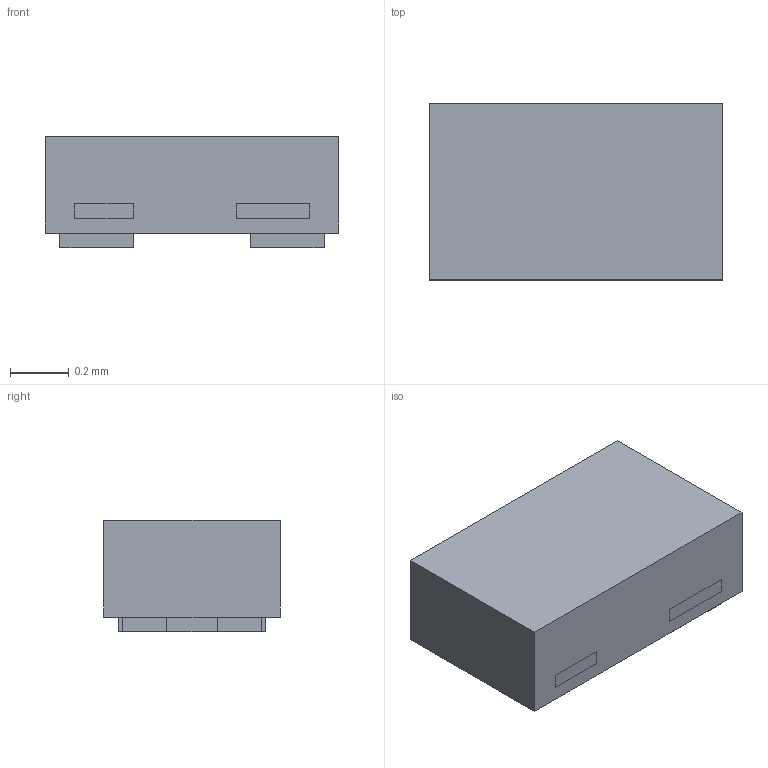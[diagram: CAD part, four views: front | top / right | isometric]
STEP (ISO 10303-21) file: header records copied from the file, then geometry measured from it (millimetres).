
FILE_DESCRIPTION(/* description */ (''),/* implementation_level */ '2;1');
FILE_NAME(/* name */ 'P300-SOT883.stp',/* time_stamp */ '2020-07-13T13:48:13+02:00',/* author */ (''),/* organization */ (''),/* preprocessor_version */ 'ST-DEVELOPER v14',/* originating_system */ 'SIEMENS PLM Software NX 8.0',/* authorisation */ '');
FILE_SCHEMA (('AUTOMOTIVE_DESIGN { 1 0 10303 214 3 1 1 1 }'));
Length unit declared in the file: millimetre
Products named in the file (1): P300-SOT883-body
Bounding box: 1 x 0.6 x 0.38 mm (x, y, z)
Volume: 0.2 mm3; surface area: 3.7 mm2
Topology: 4 solids, 4 shells, 61 faces, 162 edges, 108 vertices
Faces by surface type: plane 61
Entity records: 2002 total; most frequent: CARTESIAN_POINT 337, ORIENTED_EDGE 324, DIRECTION 286, EDGE_CURVE 162, LINE 162, VECTOR 162, VERTEX_POINT 108, EDGE_LOOP 68
